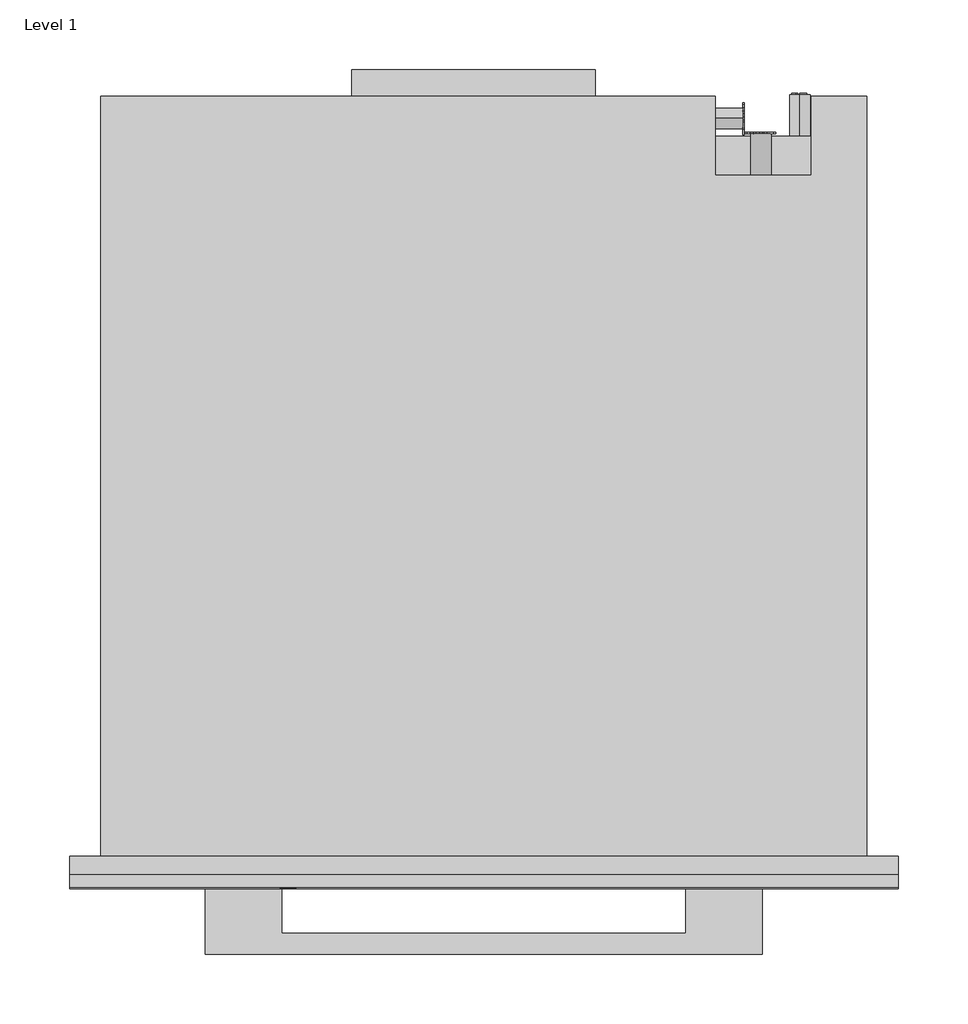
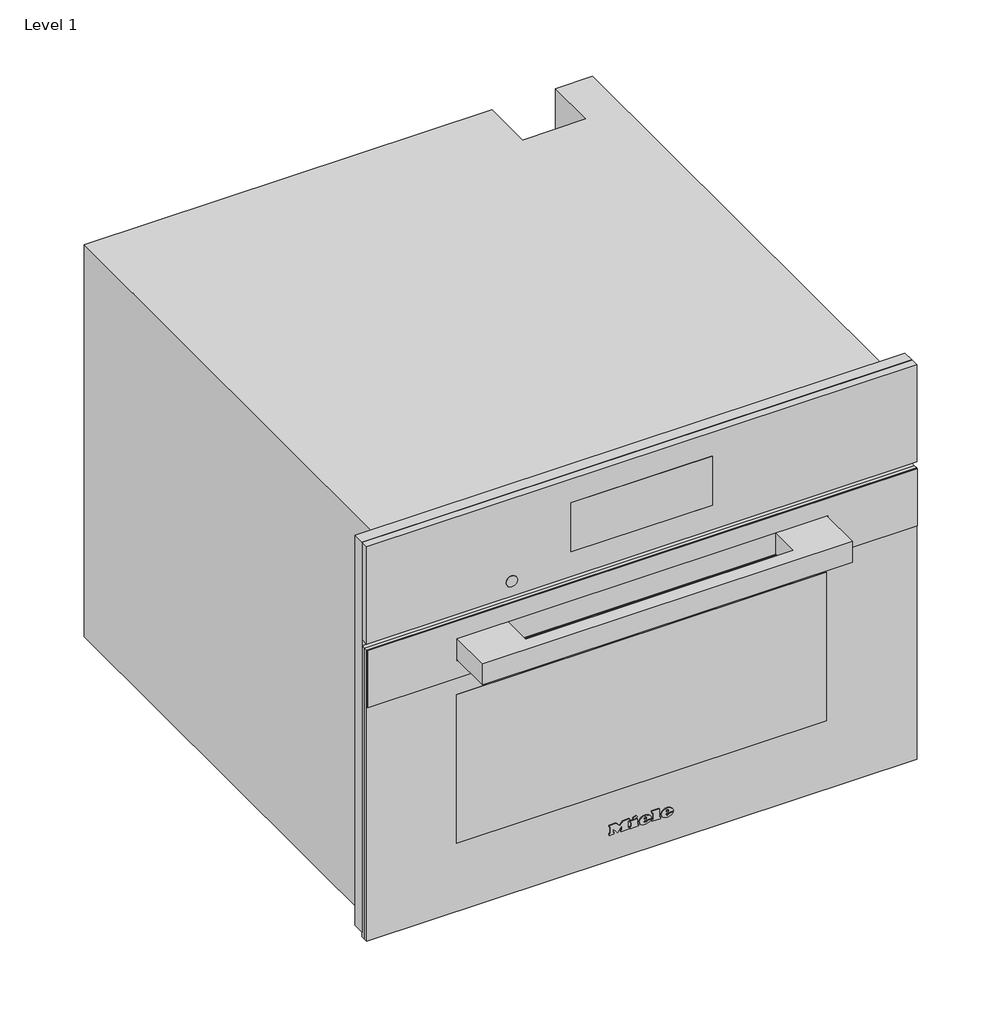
# One storey: 1 proxy.
"""IFC4 building model written with IfcOpenShell, lengths in millimetres."""

from ifc_helpers import new_model, si_unit, origin, place, context, project, spatial, transform, mapped, element, save
from components import specialty_equipment_0c457f22

model = new_model("IFC4")

# Units and contexts
model_context = context("Model", 3, world=origin())
ifc_project = project(units=[si_unit("LENGTHUNIT", "METRE", prefix="MILLI")], contexts=[model_context])

# Site, building, storey
site = spatial("IfcSite", under=ifc_project)
building = spatial("IfcBuilding", under=site)
storey = spatial("IfcBuildingStorey", under=building, Name="Level 1", Elevation=0.0)

# Proxy
placement = place(None, origin())
specialty_equipment_shape = specialty_equipment_0c457f22(model_context)
element("IfcBuildingElementProxy", 1, Name="11876580_USA_DGC7845_EDST-CLST : 23784542_USA_11876580_DGC7845_EDST-CLST", ObjectType="11876580_USA_DGC7845_EDST-CLST : 23784542_USA_11876580_DGC7845_EDST-CLST", at=placement, inside=storey, context=model_context, shape_type="MappedRepresentation", body=[
    mapped(specialty_equipment_shape, transform((0.0, 0.0, 0.0), x_axis=(1.0, 0.0, 0.0), y_axis=(0.0, 1.0, 0.0), z_axis=(0.0, 0.0, 1.0))),
])

save(model, "model.ifc")
